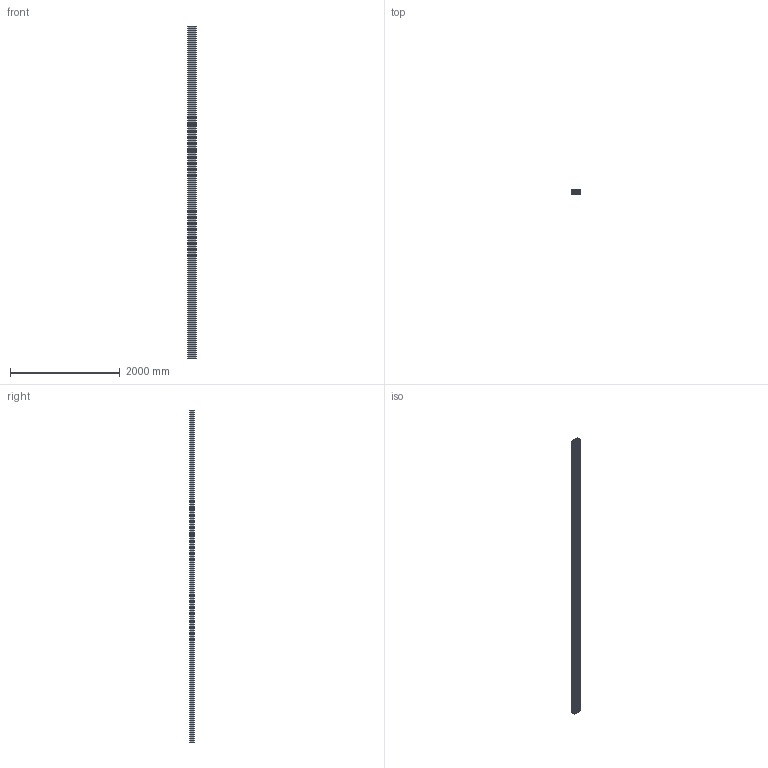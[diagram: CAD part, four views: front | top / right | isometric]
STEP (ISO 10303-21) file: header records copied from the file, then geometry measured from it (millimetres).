
FILE_DESCRIPTION (( 'STEP AP214' ), '1' );
FILE_NAME ('20107900 Profil 80x160L Nut 10.STEP', '2020-03-17T17:04:15', ( '' ), ( '' ), 'SwSTEP 2.0', 'SolidWorks 2017', '' );
FILE_SCHEMA (( 'AUTOMOTIVE_DESIGN' ));
Length unit declared in the file: millimetre
Products named in the file (1): 20107900 Profil 80x160L Nut 10
Bounding box: 160 x 80 x 6060 mm (x, y, z)
Volume: 20710534.9 mm3; surface area: 12540818.9 mm2
Topology: 1 solids, 1 shells, 1052 faces, 3150 edges, 2100 vertices
Faces by surface type: plane 530, cylinder 522
Entity records: 35812 total; most frequent: CARTESIAN_POINT 6303, DIRECTION 6300, ORIENTED_EDGE 6300, EDGE_CURVE 3150, VECTOR 2106, LINE 2106, VERTEX_POINT 2100, AXIS2_PLACEMENT_3D 2097
